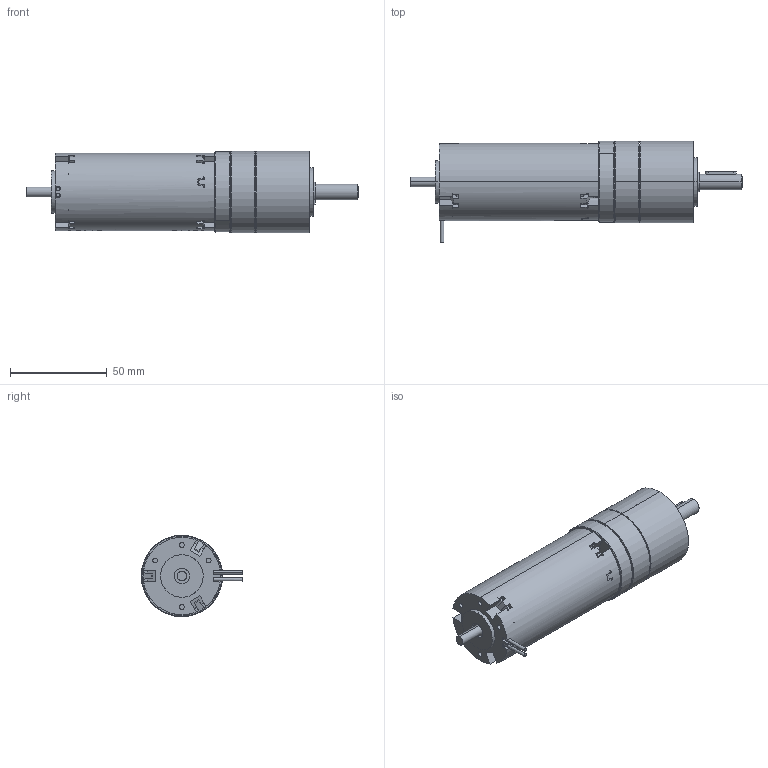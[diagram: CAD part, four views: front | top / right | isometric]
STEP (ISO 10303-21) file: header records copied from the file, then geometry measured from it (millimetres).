
FILE_DESCRIPTION (( 'STEP AP214' ), '1' );
FILE_NAME ('1.13.049_+_PM42-1etage.STEP', '2013-07-18T14:38:29', ( '' ), ( '' ), 'SwSTEP 2.0', 'SolidWorks 2013', '' );
FILE_SCHEMA (( 'AUTOMOTIVE_DESIGN' ));
Length unit declared in the file: millimetre
Products named in the file (18): 8007595_LAGERFLANSCH_5; 1.13.049_+_PM42-1etage; 1.13.049.401_3; D912_M3X8_5; SCHRAUBE_1241978_12; 8006286_MOTORRITZEL_Z17_2; 8007579_ANLAUFSCHEIBE_Z17_1ST_1; 1210329_1; P8209_8007589_ZAHNKRANZ_Z46_5; 8007606_DICHTRING_5; 3X3X16_D6885A_6; D471_8X0_8_6; 8001316_ABTRIEB_LK4_KPL_5; 8001305_LAGERBOLZEN_6; VBZ_K7841_ABTRIEB_AF0_6; DIN998_PS_8X14X1_6; D625-608-2RS_5
Assembly tree (26 placements, depth 3):
  1.13.049_+_PM42-1etage
    8007595_LAGERFLANSCH_5
    D625-608-2RS_5  x2
    DIN998_PS_8X14X1_6  x2
    8001316_ABTRIEB_LK4_KPL_5
      VBZ_K7841_ABTRIEB_AF0_6
      8001305_LAGERBOLZEN_6  x3
    D471_8X0_8_6
    3X3X16_D6885A_6
    8007606_DICHTRING_5  x2
    P8209_8007589_ZAHNKRANZ_Z46_5
    1210329_1
    8007579_ANLAUFSCHEIBE_Z17_1ST_1
    8006286_MOTORRITZEL_Z17_2
    SCHRAUBE_1241978_12  x4
    D912_M3X8_5  x2
    1.13.049.401_3
      1.13.049.401_3
Bounding box: 171.6 x 52.44 x 42 mm (x, y, z)
Volume: 14446 mm3; surface area: 60742.2 mm2
Topology: 18 solids, 49 shells, 1211 faces, 3315 edges, 2155 vertices
Faces by surface type: cylinder 538, plane 433, cone 135, bspline 105
Entity records: 44781 total; most frequent: CARTESIAN_POINT 12594, ORIENTED_EDGE 5823, DIRECTION 5473, EDGE_CURVE 2944, AXIS2_PLACEMENT_3D 2005, VERTEX_POINT 1933, LINE 1463, VECTOR 1463
